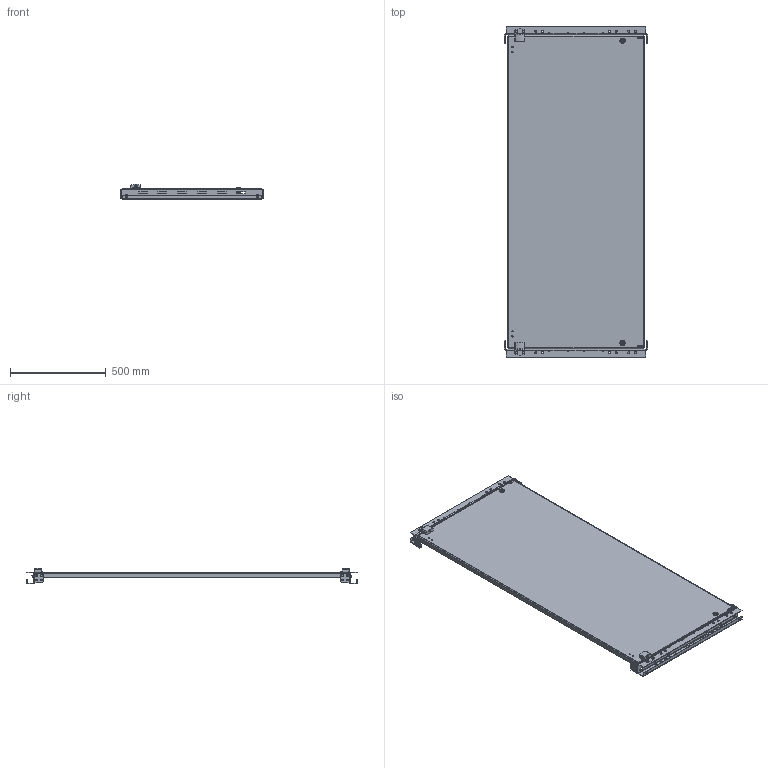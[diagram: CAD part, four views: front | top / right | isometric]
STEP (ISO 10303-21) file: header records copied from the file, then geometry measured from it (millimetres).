
FILE_DESCRIPTION (( 'STEP AP203' ), '1' );
FILE_NAME ('91940.step', '2013-04-03T13:12:03', ( '' ), ( '' ), 'SwSTEP 2.0', 'SolidWorks 2010', '' );
FILE_SCHEMA (( 'CONFIG_CONTROL_DESIGN' ));
Length unit declared in the file: inch
Products named in the file (15): 87932262; 87932266; 87956875; 99405822; 11258006; 11258007; 99411283; 91940; 21458210; 11358725; 11158563_FLEXIBLE; 11158400; 87960060; 87959737; 11458483
Assembly tree (19 placements, depth 5):
  91940
    11358725  x2
    21458210
    11158563_FLEXIBLE
      11258006  x2
      11258007  x2
      11158400  x2
        11458483
          87932266
          87932262
          87956875
        99405822
        87960060
          87959737
      99411283  x2
Bounding box: 747.29 x 1725.33 x 82.37 mm (x, y, z)
Volume: 3920917.7 mm3; surface area: 3071951 mm2
Topology: 15 solids, 23 shells, 1108 faces, 2922 edges, 1872 vertices
Faces by surface type: plane 570, cylinder 478, bspline 42, cone 18
Entity records: 23902 total; most frequent: CARTESIAN_POINT 6527, DIRECTION 3236, ORIENTED_EDGE 3234, EDGE_CURVE 1620, AXIS2_PLACEMENT_3D 1113, VERTEX_POINT 1036, LINE 1010, VECTOR 1010
